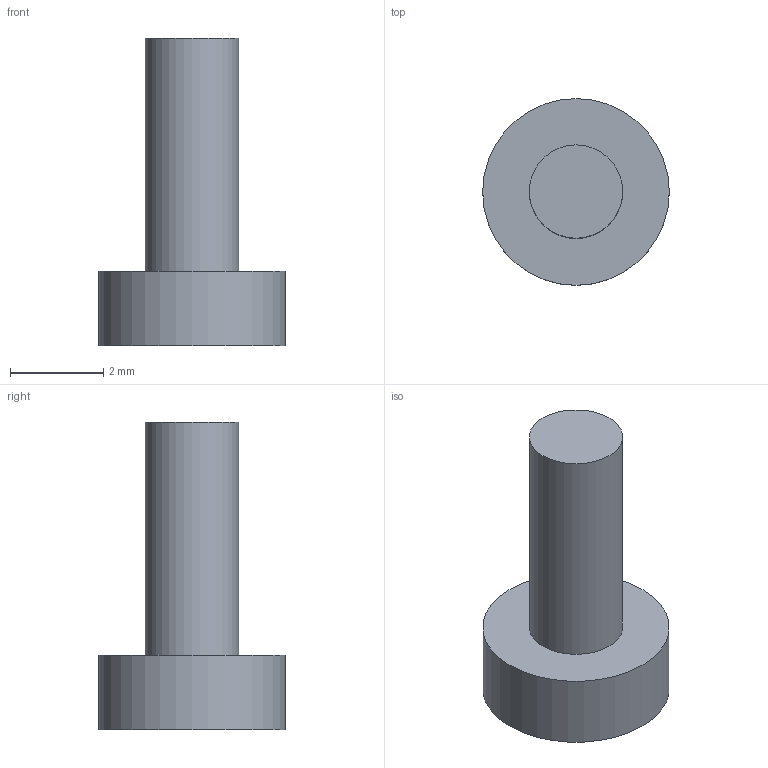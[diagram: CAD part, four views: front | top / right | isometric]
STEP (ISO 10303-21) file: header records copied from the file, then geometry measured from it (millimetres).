
FILE_DESCRIPTION(('Open CASCADE Model'),'2;1');
FILE_NAME('Open CASCADE Shape Model','2026-09-15T13:32:13',('Author'),( 'Open CASCADE'),'Open CASCADE STEP processor 7.7','Open CASCADE 7.7' ,'Unknown');
FILE_SCHEMA(('AUTOMOTIVE_DESIGN { 1 0 10303 214 1 1 1 1 }'));
Length unit declared in the file: millimetre
Products named in the file (1): HP_P14_7.4_M2x5_PAN_REFERENCE
Bounding box: 4 x 4 x 6.6 mm (x, y, z)
Volume: 35.8 mm3; surface area: 76.7 mm2
Topology: 1 solids, 1 shells, 5 faces, 6 edges, 4 vertices
Faces by surface type: plane 3, cylinder 2
Full cylindrical faces by diameter (mm): 2 x1, 4 x1
Entity records: 192 total; most frequent: DIRECTION 34, CARTESIAN_POINT 28, ORIENTED_EDGE 12, PCURVE 12, DEFINITIONAL_REPRESENTATION 12, AXIS2_PLACEMENT_3D 10, LINE 10, VECTOR 10
